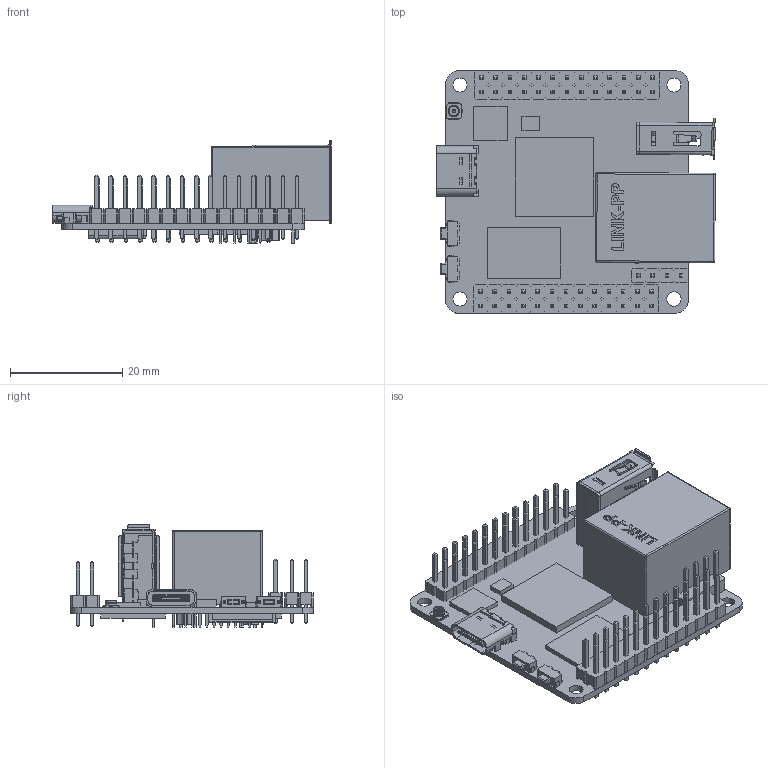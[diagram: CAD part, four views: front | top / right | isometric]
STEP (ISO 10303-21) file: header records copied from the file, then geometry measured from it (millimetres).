
FILE_DESCRIPTION((''),'2;1');
FILE_NAME('PI_S_ASM','2023-09-01T15:58:21',('admin'),(''),'CREO PARAMETRIC BY PTC INC, 2023072','CREO PARAMETRIC BY PTC INC, 2023072','');
FILE_SCHEMA(('CONFIG_CONTROL_DESIGN','SHAPE_APPEARANCE_LAYERS_GROUPS'));
Products named in the file (14): PI_S_PCB; PI_S_BOT; 3D-AF0001; LPJG0926HENL; 000_26; 000_4; USB-16PIN-TYPEC_FIN_1_252_2; TS_1100; MICRO-RFB01-H10-01_3; MICRO-RFB01-S10-02_1; MICRO-RFB01-T00-03_3; MICRO-RFB01-A10-00_ASM_3_ASM; MICRO-RFB01-A10-00_ASM_ASM; PI_S_ASM
Assembly tree (15 placements, depth 4):
  PI_S_ASM
    PI_S_PCB
    PI_S_BOT
    3D-AF0001
    LPJG0926HENL
    000_26  x2
    000_4
    USB-16PIN-TYPEC_FIN_1_252_2
    TS_1100  x2
    MICRO-RFB01-A10-00_ASM_ASM
      MICRO-RFB01-A10-00_ASM_3_ASM
        MICRO-RFB01-H10-01_3
        MICRO-RFB01-S10-02_1
        MICRO-RFB01-T00-03_3
Bounding box: 49.59 x 43.18 x 18.25 mm (x, y, z)
Volume: 7722.3 mm3; surface area: 12405.5 mm2
Topology: 12 solids, 19 shells, 4138 faces, 41829 edges, 50810 vertices
Faces by surface type: plane 3256, cylinder 697, bspline 58, extrusion 47, torus 43, sphere 26, cone 11
Entity records: 385424 total; most frequent: DIRECTION 66205, CARTESIAN_POINT 53551, PRESENTATION_STYLE_ASSIGNMENT 33305, STYLED_ITEM 33303, CURVE_STYLE 32762, TRIMMED_CURVE 30825, AXIS2_PLACEMENT_3D 23001, VECTOR 20203
